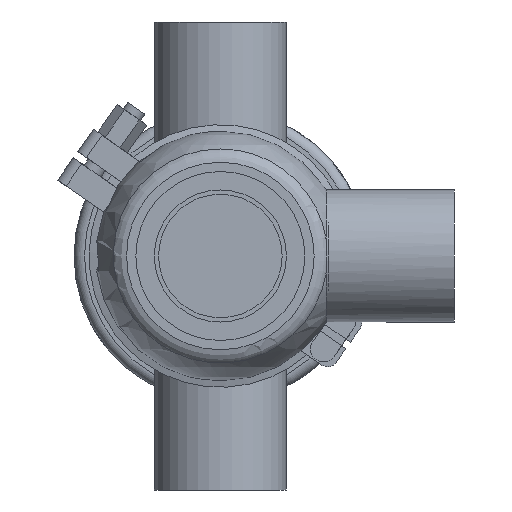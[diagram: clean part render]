
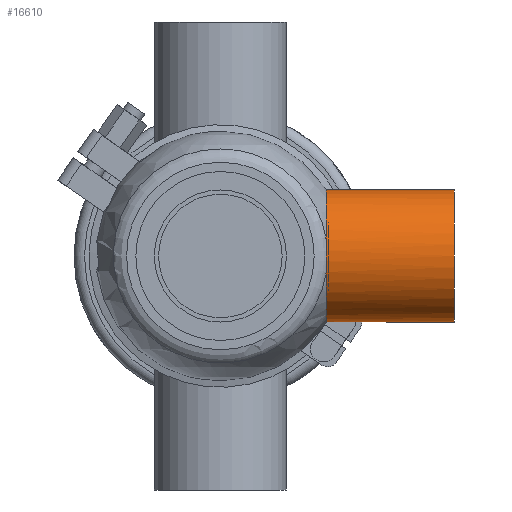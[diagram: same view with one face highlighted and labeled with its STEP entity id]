
A CAD part, front view. The second image highlights one B-rep face of the part: STEP entity #16610.
In plain terms, the highlighted cylindrical face has radius 25.4 mm (diameter 50.8 mm), a full revolution.
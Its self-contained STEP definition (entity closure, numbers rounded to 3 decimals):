
#1587 = CARTESIAN_POINT ( 'NONE',  ( 90., 0., 0. ) ) ;
#1771 = CARTESIAN_POINT ( 'NONE',  ( 40.711, -25.088, -4.099 ) ) ;
#1791 = DIRECTION ( 'NONE',  ( 0., 0., 1. ) ) ;
#2073 = ORIENTED_EDGE ( 'NONE', *, *, #5541, .T. ) ;
#2130 = VERTEX_POINT ( 'NONE', #15603 ) ;
#3042 = DIRECTION ( 'NONE',  ( 0., 0., 1. ) ) ;
#3790 = CARTESIAN_POINT ( 'NONE',  ( 40.711, -25.088, 4.101 ) ) ;
#4458 = CIRCLE ( 'NONE', #8978, 25.4 ) ;
#4989 = CARTESIAN_POINT ( 'NONE',  ( 40.669, -25.4, -0.503 ) ) ;
#5021 = CYLINDRICAL_SURFACE ( 'NONE', #19062, 25.4 ) ;
#5541 = EDGE_CURVE ( 'NONE', #2130, #10776, #14596, .T. ) ;
#5968 = CARTESIAN_POINT ( 'NONE',  ( 90., 0., 25.4 ) ) ;
#6181 = EDGE_LOOP ( 'NONE', ( #17727, #2073 ) ) ;
#6531 = FACE_OUTER_BOUND ( 'NONE', #8018, .T. ) ;
#6721 = CARTESIAN_POINT ( 'NONE',  ( 40.729, -24.902, 5.113 ) ) ;
#7205 = CARTESIAN_POINT ( 'NONE',  ( 40.729, -24.652, -6.117 ) ) ;
#8018 = EDGE_LOOP ( 'NONE', ( #14277 ) ) ;
#8272 = CARTESIAN_POINT ( 'NONE',  ( 40.67, -25.4, 1.042 ) ) ;
#8455 = EDGE_CURVE ( 'NONE', #10776, #2130, #4458, .T. ) ;
#8575 = CARTESIAN_POINT ( 'NONE',  ( 40.729, -24.902, -5.113 ) ) ;
#8978 = AXIS2_PLACEMENT_3D ( 'NONE', #12767, #14184, #3042 ) ;
#9047 = AXIS2_PLACEMENT_3D ( 'NONE', #1587, #14872, #13363 ) ;
#10380 = CARTESIAN_POINT ( 'NONE',  ( 40.681, -25.337, 2.066 ) ) ;
#10776 = VERTEX_POINT ( 'NONE', #7205 ) ;
#11632 = DIRECTION ( 'NONE',  ( -1., 0., 0. ) ) ;
#11800 = CARTESIAN_POINT ( 'NONE',  ( 40.682, -25.322, -2.053 ) ) ;
#12767 = CARTESIAN_POINT ( 'NONE',  ( 40.729, 0., 0. ) ) ;
#12792 = VERTEX_POINT ( 'NONE', #5968 ) ;
#13042 = CARTESIAN_POINT ( 'NONE',  ( 0., 0., 0. ) ) ;
#13363 = DIRECTION ( 'NONE',  ( 0., 0., 1. ) ) ;
#13535 = CARTESIAN_POINT ( 'NONE',  ( 40.729, -24.652, 6.117 ) ) ;
#14184 = DIRECTION ( 'NONE',  ( 1., 0., 0. ) ) ;
#14277 = ORIENTED_EDGE ( 'NONE', *, *, #17481, .T. ) ;
#14596 = B_SPLINE_CURVE_WITH_KNOTS ( 'NONE', 3,
 ( #13535, #6721, #3790, #10380, #8272, #4989, #14842, #11800, #15249, #1771, #8575, #20159 ),
 .UNSPECIFIED., .F., .F.,
 ( 4, 2, 2, 2, 2, 4 ),
 ( 0., 0.003, 0.006, 0.008, 0.009, 0.012 ),
 .UNSPECIFIED. ) ;
#14842 = CARTESIAN_POINT ( 'NONE',  ( 40.672, -25.385, -1.022 ) ) ;
#14872 = DIRECTION ( 'NONE',  ( -1., 0., 0. ) ) ;
#15249 = CARTESIAN_POINT ( 'NONE',  ( 40.689, -25.275, -2.566 ) ) ;
#15603 = CARTESIAN_POINT ( 'NONE',  ( 40.729, -24.652, 6.117 ) ) ;
#16598 = FACE_OUTER_BOUND ( 'NONE', #6181, .T. ) ;
#16610 = ADVANCED_FACE ( 'NONE', ( #16598, #6531 ), #5021, .T. ) ;
#16995 = CIRCLE ( 'NONE', #9047, 25.4 ) ;
#17481 = EDGE_CURVE ( 'NONE', #12792, #12792, #16995, .T. ) ;
#17727 = ORIENTED_EDGE ( 'NONE', *, *, #8455, .T. ) ;
#19062 = AXIS2_PLACEMENT_3D ( 'NONE', #13042, #11632, #1791 ) ;
#20159 = CARTESIAN_POINT ( 'NONE',  ( 40.729, -24.652, -6.117 ) ) ;
